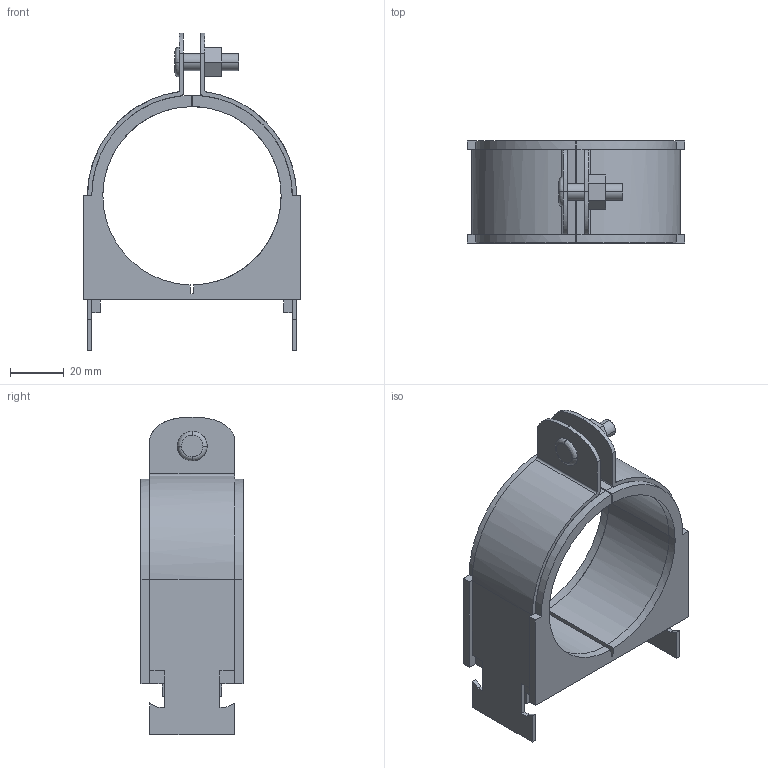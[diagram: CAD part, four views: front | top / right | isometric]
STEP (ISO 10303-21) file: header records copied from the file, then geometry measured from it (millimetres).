
FILE_DESCRIPTION(('TurboCAD Mac Pro'),'Build 980');
FILE_NAME('042N048.stp',' ',(''),(''),'ACIS Interop','IMSI','TurboCAD Mac Pro BY IMSI, INCORPORATED');
FILE_SCHEMA(('automotive_design'));
Length unit declared in the file: inch
Products named in the file (2): 1; 2
Bounding box: 81.16 x 38.1 x 118.62 mm (x, y, z)
Volume: 14271.6 mm3; surface area: 41643.3 mm2
Topology: 1 solids, 2 shells, 150 faces, 398 edges, 256 vertices
Faces by surface type: plane 104, bspline 46
Entity records: 7155 total; most frequent: CARTESIAN_POINT 1775, ORIENTED_EDGE 792, DIRECTION 500, EDGE_CURVE 396, STYLED_ITEM 311, PRESENTATION_STYLE_ASSIGNMENT 311, COLOUR_RGB 311, LINE 282
